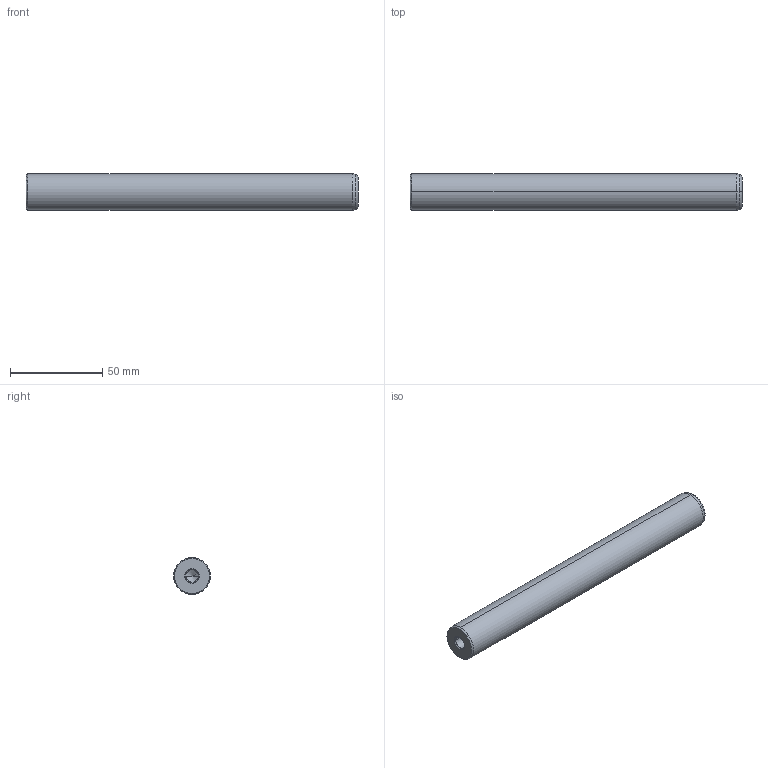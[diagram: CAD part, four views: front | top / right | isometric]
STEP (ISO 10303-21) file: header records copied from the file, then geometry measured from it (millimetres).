
FILE_DESCRIPTION(('CATIA V5 STEP Exchange'),'2;1');
FILE_NAME('C:\Users\Utente\Desktop\IO LAVORO\3D X SITO CF\X SITO\720\720-20x180.stp','2021-01-01T12:58:45+00:00',('none'),('none'),'CATIA Version 5 Release 20 GA (IN-10)','CATIA V5 STEP AP203','none');
FILE_SCHEMA(('CONFIG_CONTROL_DESIGN'));
Length unit declared in the file: millimetre
Products named in the file (1): 720-20x180
Bounding box: 180 x 20 x 20 mm (x, y, z)
Volume: 54711.5 mm3; surface area: 12831.3 mm2
Topology: 1 solids, 1 shells, 22 faces, 56 edges, 34 vertices
Faces by surface type: cone 12, cylinder 6, plane 2, torus 2
Entity records: 749 total; most frequent: CARTESIAN_POINT 210, ORIENTED_EDGE 104, DIRECTION 89, EDGE_CURVE 52, AXIS2_PLACEMENT_3D 50, VERTEX_POINT 34, CIRCLE 27, EDGE_LOOP 24
